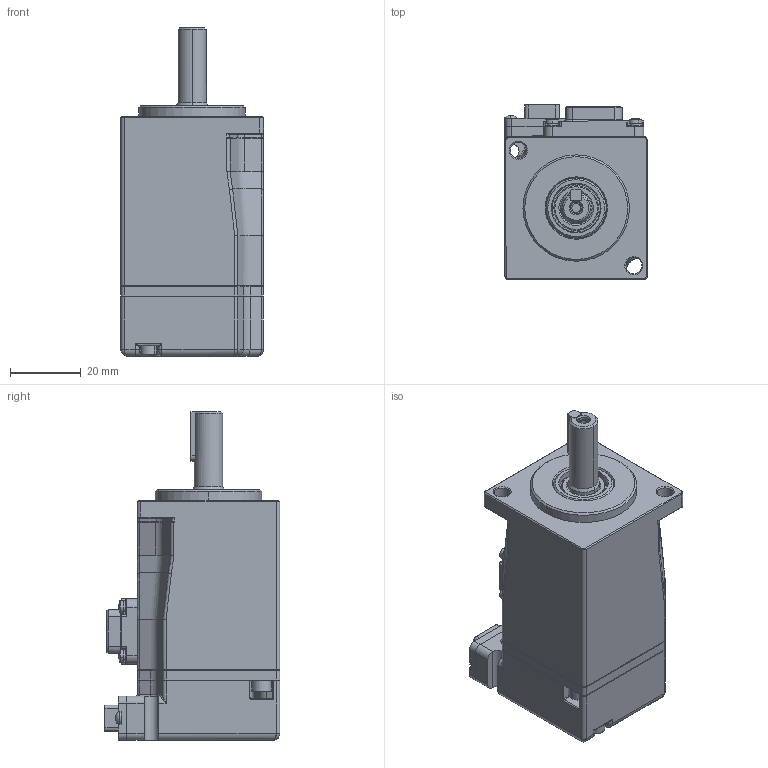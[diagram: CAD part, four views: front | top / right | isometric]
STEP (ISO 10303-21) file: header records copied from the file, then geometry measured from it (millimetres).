
FILE_DESCRIPTION (( 'STEP AP214' ), '1' );
FILE_NAME ('100W眻脣萇儂.STEP', '2024-10-13T07:29:33', ( 'Windows 蚚誧' ), ( 'Organization' ), 'SwSTEP 2.0', 'SolidWorks 2021', '' );
FILE_SCHEMA (( 'AUTOMOTIVE_DESIGN' ));
Length unit declared in the file: millimetre
Products named in the file (1): 100W眻脣萇儂
Bounding box: 40.33 x 49.51 x 92.7 mm (x, y, z)
Surface area: 18554.1 mm2 (no closed solid volume)
Topology: 0 solids, 32 shells, 788 faces, 2556 edges, 1756 vertices
Faces by surface type: plane 421, cylinder 227, cone 53, torus 41, bspline 38, sphere 8
Entity records: 37906 total; most frequent: CARTESIAN_POINT 7346, DIRECTION 4550, ORIENTED_EDGE 4170, EDGE_CURVE 2539, VERTEX_POINT 1756, AXIS2_PLACEMENT_3D 1536, LINE 1478, VECTOR 1478
